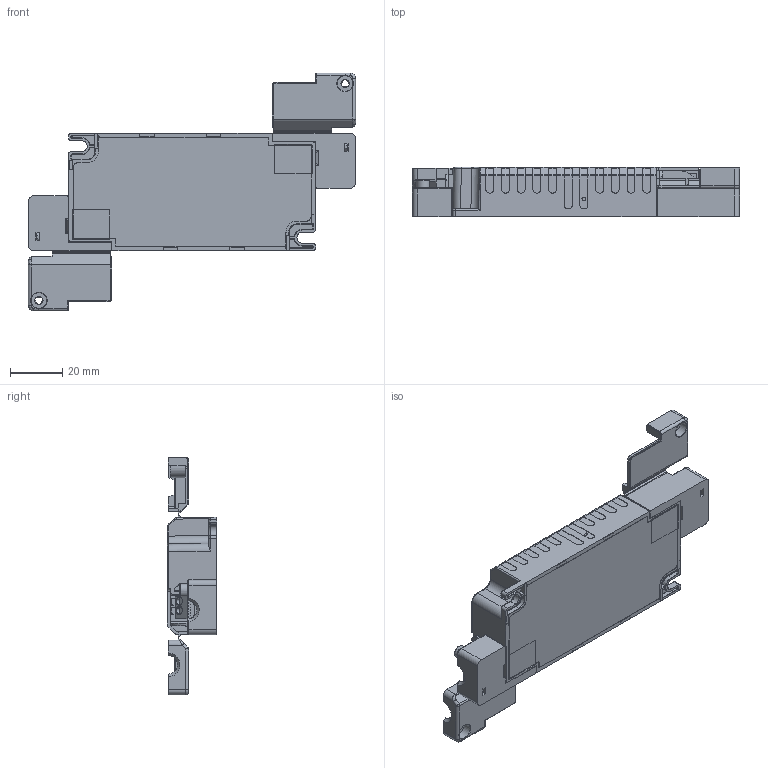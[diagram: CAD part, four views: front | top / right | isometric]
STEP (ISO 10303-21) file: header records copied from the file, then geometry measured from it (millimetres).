
FILE_DESCRIPTION(/* description */ ('','CAx-IF Rec.Pracs.---Representation and Presentation of Product Manufacturing Information (PMI)---3.8---2014-02-18'),/* implementation_level */ '2;1');
FILE_NAME(/* name */ 'C:\Data\Vault\LE-TPD\9290 028 03700_Xitanium 12W 0.08-0.5A 24V 230V\9290-028-03706 sh-010_Independent 2020-06-11.stp',/* time_stamp */ '2020-06-11T13:29:19+02:00',/* author */ ('nly19266'),/* organization */ (''),/* preprocessor_version */ 'ST-DEVELOPER v16.5',/* originating_system */ 'Autodesk Inventor 2017',/* authorisation */ '');
FILE_SCHEMA (('AP242_MANAGED_MODEL_BASED_3D_ENGINEERING_MIM_LF { 1 0 10303 442 1 1 4 }'));
Length unit declared in the file: millimetre
Products named in the file (8): 9290-028-03700 sh-010; KT-045; Base KT-045_BL854_488787553; CalottaKT-045_BL855_488787554; Circuito; Independent parts; DUANGAI; XIANKA_170601
Assembly tree (8 placements, depth 3):
  9290-028-03700 sh-010
    KT-045
      Base KT-045_BL854_488787553
      CalottaKT-045_BL855_488787554
      Circuito
    Independent parts  x2
      DUANGAI
      XIANKA_170601
Bounding box: 125.04 x 19 x 90.97 mm (x, y, z)
Volume: 85017.3 mm3; surface area: 44370.3 mm2
Topology: 9 solids, 15 shells, 1937 faces, 5342 edges, 3438 vertices
Faces by surface type: plane 1162, cylinder 579, bspline 84, torus 50, cone 50, sphere 12
Full cylindrical faces by diameter (mm): 1 x36, 1.1 x4, 1.15 x4, 1.3 x4, 2.5 x2, 5 x14, 5.5 x2, 6 x2
Entity records: 54675 total; most frequent: CARTESIAN_POINT 13333, ORIENTED_EDGE 8676, DIRECTION 8400, EDGE_CURVE 4338, LINE 2936, VECTOR 2936, VERTEX_POINT 2833, AXIS2_PLACEMENT_3D 2732
